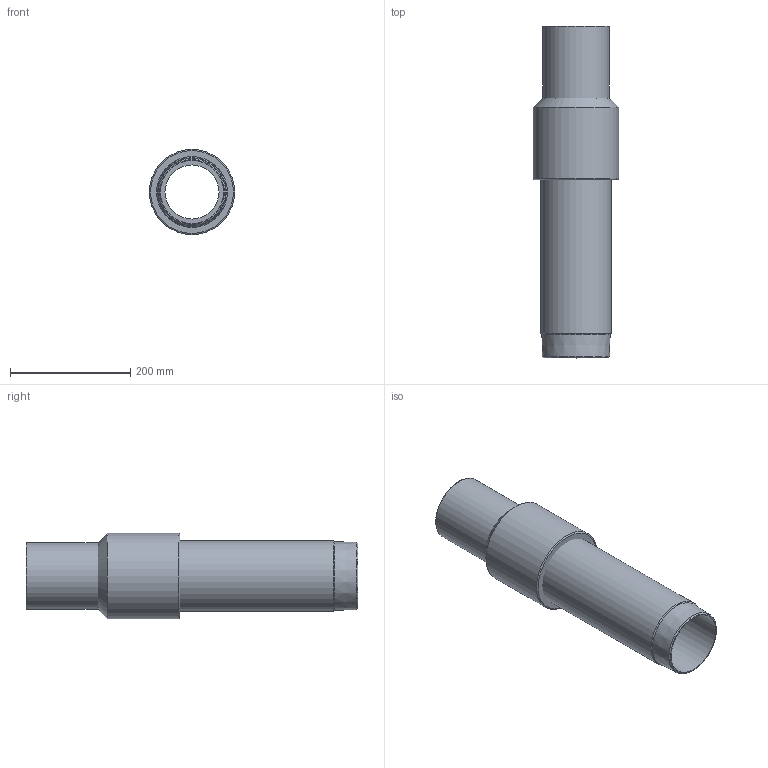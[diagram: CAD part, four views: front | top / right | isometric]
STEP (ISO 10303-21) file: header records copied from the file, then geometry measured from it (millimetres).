
FILE_DESCRIPTION(/* description */ ('Unknown'),/* implementation_level */ '2;1');
FILE_NAME(/* name */ 'RTFZRP110C',/* time_stamp */ '2022-04-27T09:19:15+02:00',/* author */ ('Unknown'),/* organization */ ('Unknown'),/* preprocessor_version */ 'ST-DEVELOPER v18.1',/* originating_system */ 'Solid Edge',/* authorisation */ 'Unknown');
FILE_SCHEMA (('AUTOMOTIVE_DESIGN {1 0 10303 214 3 1 1}'));
Length unit declared in the file: millimetre
Products named in the file (4): RTFZRP110C; Partea ACCIAIO; copertura tubo; Parte PE_
Assembly tree (3 placements, depth 2):
  RTFZRP110C
    Partea ACCIAIO
    copertura tubo
    Parte PE_
Bounding box: 142 x 553 x 142 mm (x, y, z)
Volume: 2028040 mm3; surface area: 768492.4 mm2
Topology: 3 solids, 3 shells, 20 faces, 35 edges, 21 vertices
Faces by surface type: cylinder 8, plane 6, cone 4, torus 2
Full cylindrical faces by diameter (mm): 90 x1, 105.3 x1, 110 x1, 114.3 x3, 117.9 x1, 142 x1
Entity records: 554 total; most frequent: DIRECTION 88, CARTESIAN_POINT 64, AXIS2_PLACEMENT_3D 44, ORIENTED_EDGE 40, EDGE_LOOP 40, FACE_BOUND 40, EDGE_CURVE 20, VERTEX_POINT 20
